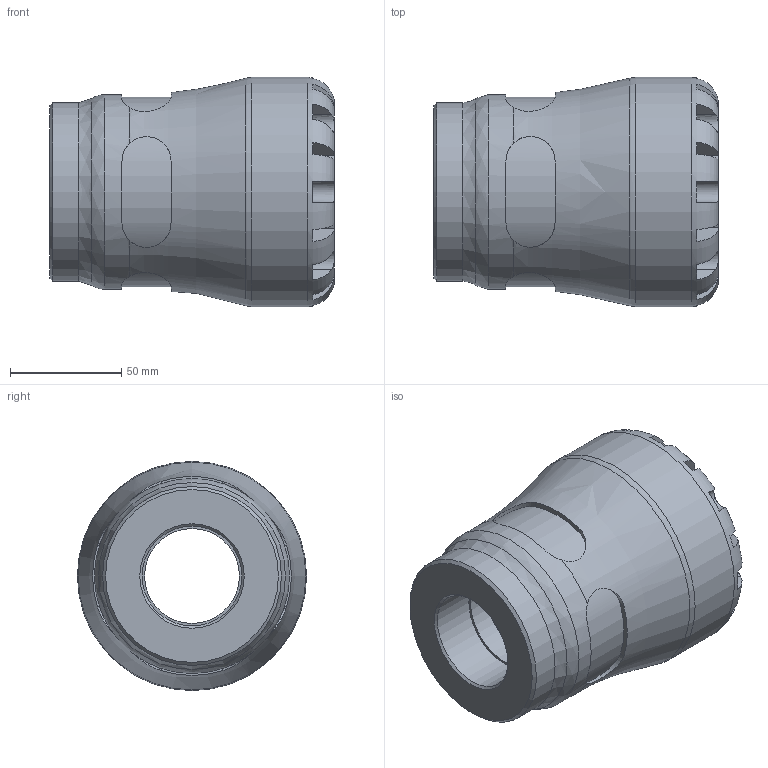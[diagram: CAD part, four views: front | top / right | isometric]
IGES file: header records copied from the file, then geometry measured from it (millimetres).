
Global section: file name: 107300063015_197300063015.ipt; native system: Autodesk Inventor 2015; preprocessor: unknown; author: KIM; date: 20170122.113638; units: millimetre
Bounding box: 128 x 103 x 103 mm (x, y, z)
Volume: 511299.5 mm3; surface area: 73329.7 mm2
Topology: 1 solids, 1 shells, 104 faces, 279 edges, 180 vertices
Faces by surface type: plane 61, revolution 27, cylinder 15, cone 1
Full cylindrical faces by diameter (mm): 80.34 x1, 87.55 x1, 103 x1
